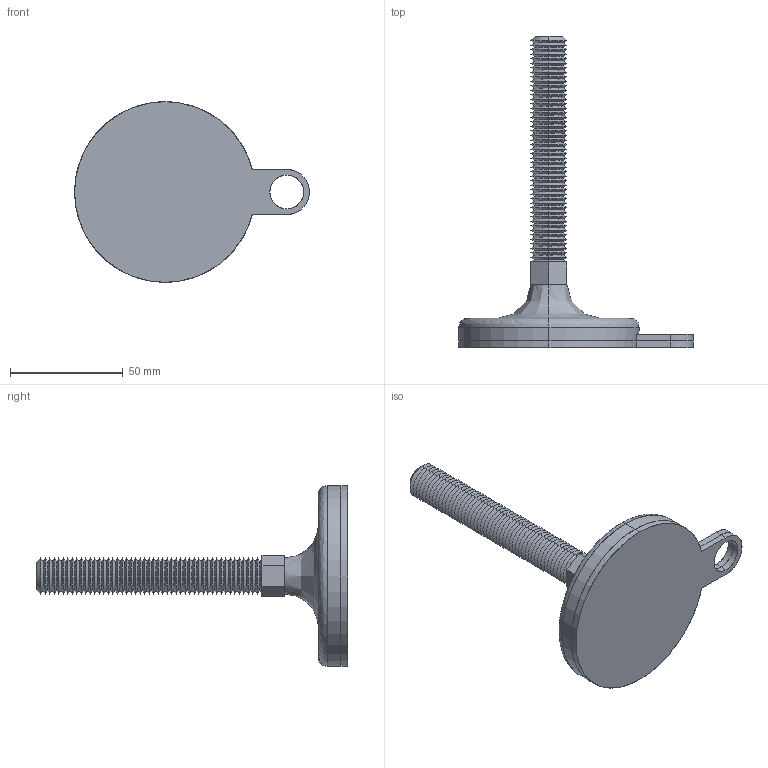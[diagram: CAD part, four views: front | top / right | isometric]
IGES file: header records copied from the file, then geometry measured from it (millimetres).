
Start section: SolidWorks IGES file using analytic representation for surfaces
Global section: file name: C:\Users\liam_\OneDrive\Documents\WORK\Work for WixRoyd\Job Files\J-00026 - Matt Davis CAD - 20191124\04. CAD Drawings\Wixroyd20191124\34704_v2\34704_v2_20191128_IGES\34704.W1601.igs; native system: SolidWorks 2017; preprocessor: SolidWorks 2017; author: liam_; date: 191128.202454; units: millimetre
Bounding box: 104 x 138 x 80 mm (x, y, z)
Surface area: 34491.1 mm2 (no closed solid volume)
Topology: 0 solids, 0 shells, 241 faces, 1596 edges, 1596 vertices
Faces by surface type: revolution 209, bspline 32
